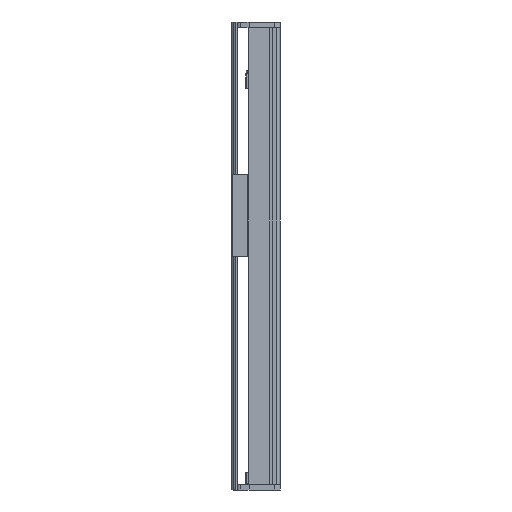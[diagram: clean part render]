
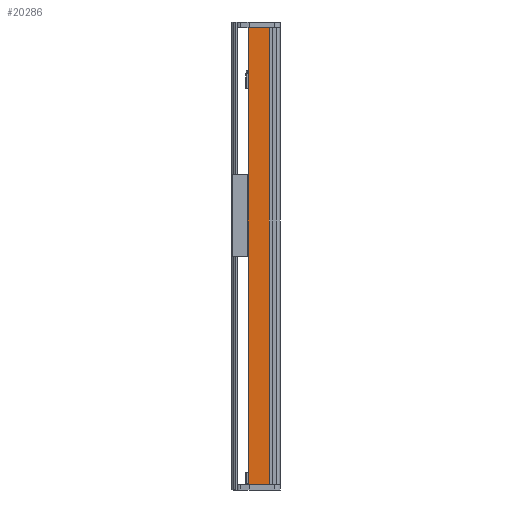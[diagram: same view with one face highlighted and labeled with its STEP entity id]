
A CAD part, left-side view. The second image highlights one B-rep face of the part: STEP entity #20286.
In plain terms, the highlighted planar face has unit normal (-1, 0, 0).
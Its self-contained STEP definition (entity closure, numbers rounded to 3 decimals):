
#3332 = CARTESIAN_POINT ( 'NONE',  ( -96.777, 0., 0. ) ) ;
#4575 = EDGE_CURVE ( 'NONE', #58217, #24238, #35855, .T. ) ;
#13937 = DIRECTION ( 'NONE',  ( 0., 0., 1. ) ) ;
#19151 = DIRECTION ( 'NONE',  ( 0., 0., -1. ) ) ;
#19271 = VECTOR ( 'NONE', #13937, 1000. ) ;
#20286 = ADVANCED_FACE ( 'NONE', ( #25151 ), #94508, .F. ) ;
#21022 = LINE ( 'NONE', #28956, #112704 ) ;
#24238 = VERTEX_POINT ( 'NONE', #54249 ) ;
#25151 = FACE_OUTER_BOUND ( 'NONE', #100566, .T. ) ;
#25644 = VECTOR ( 'NONE', #65524, 1000. ) ;
#27179 = EDGE_CURVE ( 'NONE', #58217, #77012, #21022, .T. ) ;
#28956 = CARTESIAN_POINT ( 'NONE',  ( -96.777, 0., 830. ) ) ;
#29961 = VERTEX_POINT ( 'NONE', #54733 ) ;
#35855 = LINE ( 'NONE', #63462, #56754 ) ;
#39046 = ORIENTED_EDGE ( 'NONE', *, *, #27179, .F. ) ;
#41136 = ORIENTED_EDGE ( 'NONE', *, *, #4575, .T. ) ;
#41648 = DIRECTION ( 'NONE',  ( 1., 0., 0. ) ) ;
#42747 = ORIENTED_EDGE ( 'NONE', *, *, #106294, .T. ) ;
#49482 = ORIENTED_EDGE ( 'NONE', *, *, #54159, .T. ) ;
#54159 = EDGE_CURVE ( 'NONE', #24238, #29961, #91081, .T. ) ;
#54249 = CARTESIAN_POINT ( 'NONE',  ( -96.777, 25.223, 0. ) ) ;
#54733 = CARTESIAN_POINT ( 'NONE',  ( -96.777, -13.077, 0. ) ) ;
#56754 = VECTOR ( 'NONE', #19151, 1000. ) ;
#58217 = VERTEX_POINT ( 'NONE', #82514 ) ;
#63462 = CARTESIAN_POINT ( 'NONE',  ( -96.777, 25.223, 830. ) ) ;
#65524 = DIRECTION ( 'NONE',  ( 0., -1., 0. ) ) ;
#67176 = CARTESIAN_POINT ( 'NONE',  ( -96.777, -13.077, 830. ) ) ;
#68108 = CARTESIAN_POINT ( 'NONE',  ( -96.777, 0., 830. ) ) ;
#77012 = VERTEX_POINT ( 'NONE', #107468 ) ;
#82232 = DIRECTION ( 'NONE',  ( 0., -1., 0. ) ) ;
#82514 = CARTESIAN_POINT ( 'NONE',  ( -96.777, 25.223, 830. ) ) ;
#87357 = LINE ( 'NONE', #67176, #19271 ) ;
#91081 = LINE ( 'NONE', #3332, #25644 ) ;
#92139 = AXIS2_PLACEMENT_3D ( 'NONE', #68108, #41648, #103819 ) ;
#94508 = PLANE ( 'NONE',  #92139 ) ;
#100566 = EDGE_LOOP ( 'NONE', ( #49482, #42747, #39046, #41136 ) ) ;
#103819 = DIRECTION ( 'NONE',  ( 0., 1., 0. ) ) ;
#106294 = EDGE_CURVE ( 'NONE', #29961, #77012, #87357, .T. ) ;
#107468 = CARTESIAN_POINT ( 'NONE',  ( -96.777, -13.077, 830. ) ) ;
#112704 = VECTOR ( 'NONE', #82232, 1000. ) ;
